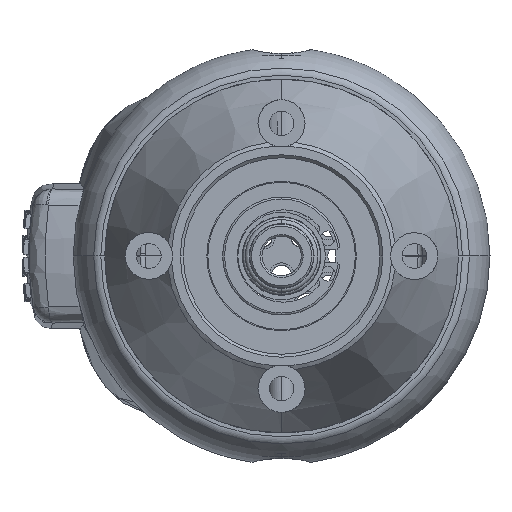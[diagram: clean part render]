
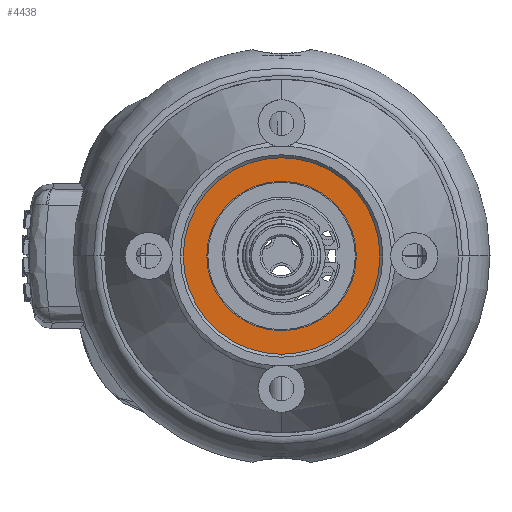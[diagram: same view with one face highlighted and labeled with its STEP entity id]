
A CAD part, left-side view. The second image highlights one B-rep face of the part: STEP entity #4438.
In plain terms, the highlighted planar face has unit normal (-1, 0, 0).
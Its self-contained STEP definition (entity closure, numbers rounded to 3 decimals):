
#811 = CARTESIAN_POINT ( 'NONE',  ( -58.9, 10., 0. ) ) ;
#4438 = ADVANCED_FACE ( 'NONE', ( #28127, #57851 ), #36008, .T. ) ;
#5445 = VERTEX_POINT ( 'NONE', #81912 ) ;
#7714 = DIRECTION ( 'NONE',  ( 0., -1., 0. ) ) ;
#14911 = CARTESIAN_POINT ( 'NONE',  ( -58.9, 0., 0. ) ) ;
#17089 = CARTESIAN_POINT ( 'NONE',  ( -58.9, 0., 0. ) ) ;
#17403 = EDGE_CURVE ( 'NONE', #60029, #24399, #48921, .T. ) ;
#24399 = VERTEX_POINT ( 'NONE', #811 ) ;
#26101 = DIRECTION ( 'NONE',  ( 0., 1., 0. ) ) ;
#28127 = FACE_BOUND ( 'NONE', #49325, .T. ) ;
#29213 = EDGE_CURVE ( 'NONE', #86235, #5445, #32713, .T. ) ;
#31172 = CIRCLE ( 'NONE', #84645, 10. ) ;
#31200 = AXIS2_PLACEMENT_3D ( 'NONE', #44191, #87899, #36771 ) ;
#32713 = CIRCLE ( 'NONE', #31200, 7.6 ) ;
#35457 = EDGE_LOOP ( 'NONE', ( #59761, #53794 ) ) ;
#36008 = PLANE ( 'NONE',  #88285 ) ;
#36771 = DIRECTION ( 'NONE',  ( 0., -1., 0. ) ) ;
#38470 = DIRECTION ( 'NONE',  ( 1., 0., 0. ) ) ;
#40520 = DIRECTION ( 'NONE',  ( -1., 0., 0. ) ) ;
#42443 = ORIENTED_EDGE ( 'NONE', *, *, #62812, .F. ) ;
#43432 = DIRECTION ( 'NONE',  ( -1., 0., 0. ) ) ;
#44191 = CARTESIAN_POINT ( 'NONE',  ( -58.9, 0., 0. ) ) ;
#47001 = CARTESIAN_POINT ( 'NONE',  ( -58.9, 0., 0. ) ) ;
#48570 = CARTESIAN_POINT ( 'NONE',  ( -58.9, -10., 0. ) ) ;
#48921 = CIRCLE ( 'NONE', #72700, 10. ) ;
#49015 = CARTESIAN_POINT ( 'NONE',  ( -58.9, 0., 0. ) ) ;
#49325 = EDGE_LOOP ( 'NONE', ( #42443, #68973 ) ) ;
#53794 = ORIENTED_EDGE ( 'NONE', *, *, #61508, .F. ) ;
#56755 = DIRECTION ( 'NONE',  ( 0., 1., 0. ) ) ;
#57851 = FACE_OUTER_BOUND ( 'NONE', #35457, .T. ) ;
#59761 = ORIENTED_EDGE ( 'NONE', *, *, #17403, .F. ) ;
#60029 = VERTEX_POINT ( 'NONE', #48570 ) ;
#60773 = CIRCLE ( 'NONE', #81542, 7.6 ) ;
#61508 = EDGE_CURVE ( 'NONE', #24399, #60029, #31172, .T. ) ;
#62812 = EDGE_CURVE ( 'NONE', #5445, #86235, #60773, .T. ) ;
#63650 = CARTESIAN_POINT ( 'NONE',  ( -58.9, -7.6, 0. ) ) ;
#68973 = ORIENTED_EDGE ( 'NONE', *, *, #29213, .F. ) ;
#71176 = DIRECTION ( 'NONE',  ( 1., 0., 0. ) ) ;
#72700 = AXIS2_PLACEMENT_3D ( 'NONE', #17089, #38470, #76566 ) ;
#76566 = DIRECTION ( 'NONE',  ( 0., -1., 0. ) ) ;
#81542 = AXIS2_PLACEMENT_3D ( 'NONE', #47001, #40520, #26101 ) ;
#81912 = CARTESIAN_POINT ( 'NONE',  ( -58.9, 7.6, 0. ) ) ;
#84645 = AXIS2_PLACEMENT_3D ( 'NONE', #14911, #71176, #56755 ) ;
#86235 = VERTEX_POINT ( 'NONE', #63650 ) ;
#87899 = DIRECTION ( 'NONE',  ( -1., 0., 0. ) ) ;
#88285 = AXIS2_PLACEMENT_3D ( 'NONE', #49015, #43432, #7714 ) ;
